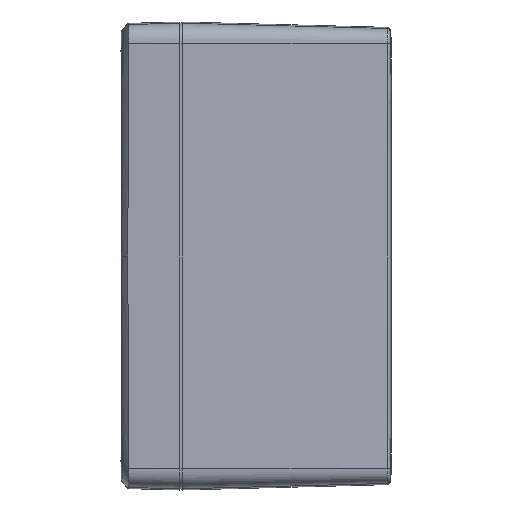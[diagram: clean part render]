
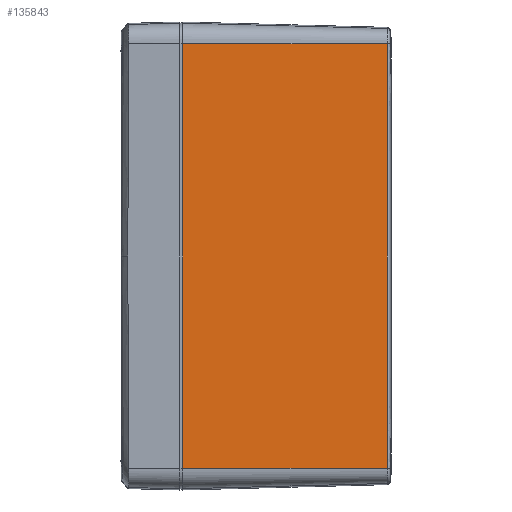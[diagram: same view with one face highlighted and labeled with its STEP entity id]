
A CAD part, left-side view. The second image highlights one B-rep face of the part: STEP entity #135843.
In plain terms, the highlighted planar face has unit normal (-1, -0.026, 0).
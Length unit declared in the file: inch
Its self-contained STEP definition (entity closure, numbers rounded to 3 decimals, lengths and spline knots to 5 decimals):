
#640 = VECTOR ( 'NONE', #27807, 39.37008 ) ;
#1481 = VERTEX_POINT ( 'NONE', #87387 ) ;
#2084 = CARTESIAN_POINT ( 'NONE',  ( -3.80922, 0.04673, 2.60995 ) ) ;
#2780 = FACE_OUTER_BOUND ( 'NONE', #45989, .T. ) ;
#6630 = B_SPLINE_CURVE_WITH_KNOTS ( 'NONE', 3,
 ( #43597, #139372, #31832, #79672 ),
 .UNSPECIFIED., .F., .F.,
 ( 4, 4 ),
 ( 0., 1. ),
 .UNSPECIFIED. ) ;
#12527 = VECTOR ( 'NONE', #103906, 39.37008 ) ;
#13149 = ORIENTED_EDGE ( 'NONE', *, *, #55889, .F. ) ;
#24857 = VECTOR ( 'NONE', #68179, 39.37008 ) ;
#27807 = DIRECTION ( 'NONE',  ( 0.026, -1., 0. ) ) ;
#31368 = LINE ( 'NONE', #41591, #24857 ) ;
#31832 = CARTESIAN_POINT ( 'NONE',  ( -3.80922, 0.04673, 0.86998 ) ) ;
#34754 = LINE ( 'NONE', #127439, #12527 ) ;
#38616 = VERTEX_POINT ( 'NONE', #91108 ) ;
#41591 = CARTESIAN_POINT ( 'NONE',  ( -3.875, 2.55875, -2.60995 ) ) ;
#43597 = CARTESIAN_POINT ( 'NONE',  ( -3.80922, 0.04671, -2.60995 ) ) ;
#45989 = EDGE_LOOP ( 'NONE', ( #50239, #152630, #13149, #73324 ) ) ;
#47568 = VERTEX_POINT ( 'NONE', #2084 ) ;
#50239 = ORIENTED_EDGE ( 'NONE', *, *, #72232, .T. ) ;
#50606 = PLANE ( 'NONE',  #60055 ) ;
#55889 = EDGE_CURVE ( 'NONE', #113735, #47568, #34754, .T. ) ;
#60055 = AXIS2_PLACEMENT_3D ( 'NONE', #111797, #63137, #100032 ) ;
#63137 = DIRECTION ( 'NONE',  ( -1., -0.026, 0. ) ) ;
#65707 = EDGE_CURVE ( 'NONE', #1481, #113735, #31368, .T. ) ;
#68179 = DIRECTION ( 'NONE',  ( 0., 0., 1. ) ) ;
#72232 = EDGE_CURVE ( 'NONE', #1481, #38616, #89744, .T. ) ;
#73324 = ORIENTED_EDGE ( 'NONE', *, *, #65707, .F. ) ;
#79672 = CARTESIAN_POINT ( 'NONE',  ( -3.80922, 0.04673, 2.60995 ) ) ;
#87387 = CARTESIAN_POINT ( 'NONE',  ( -3.875, 2.55875, -2.60995 ) ) ;
#89744 = LINE ( 'NONE', #148670, #640 ) ;
#91108 = CARTESIAN_POINT ( 'NONE',  ( -3.80922, 0.04671, -2.60995 ) ) ;
#100032 = DIRECTION ( 'NONE',  ( 0.026, -1., 0. ) ) ;
#103906 = DIRECTION ( 'NONE',  ( 0.026, -1., 0. ) ) ;
#111797 = CARTESIAN_POINT ( 'NONE',  ( -3.875, 2.55875, -2.60995 ) ) ;
#113735 = VERTEX_POINT ( 'NONE', #146533 ) ;
#127439 = CARTESIAN_POINT ( 'NONE',  ( -3.875, 2.55875, 2.60995 ) ) ;
#135843 = ADVANCED_FACE ( 'Face2', ( #2780 ), #50606, .T. ) ;
#139372 = CARTESIAN_POINT ( 'NONE',  ( -3.80922, 0.04673, -0.86998 ) ) ;
#145371 = EDGE_CURVE ( 'NONE', #38616, #47568, #6630, .T. ) ;
#146533 = CARTESIAN_POINT ( 'NONE',  ( -3.875, 2.55875, 2.60995 ) ) ;
#148670 = CARTESIAN_POINT ( 'NONE',  ( -3.875, 2.55875, -2.60995 ) ) ;
#152630 = ORIENTED_EDGE ( 'NONE', *, *, #145371, .T. ) ;
